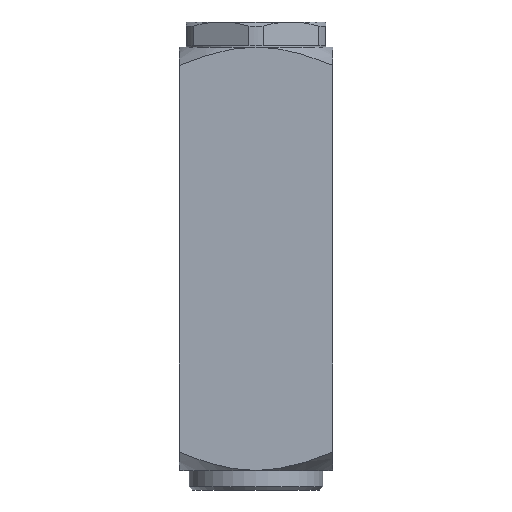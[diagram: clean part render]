
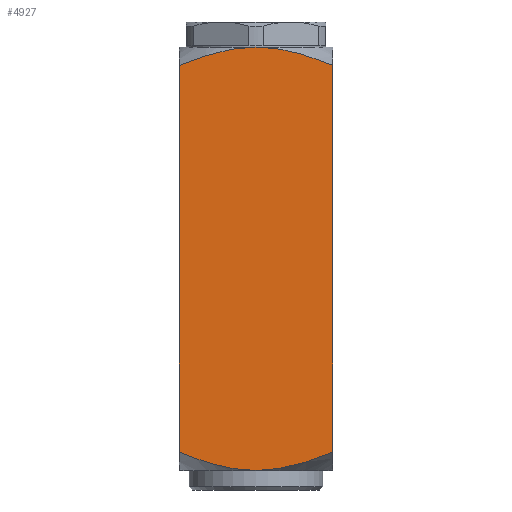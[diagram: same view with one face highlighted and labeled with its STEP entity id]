
A CAD part, front view. The second image highlights one B-rep face of the part: STEP entity #4927.
In plain terms, the highlighted planar face has unit normal (0, -1, 0).
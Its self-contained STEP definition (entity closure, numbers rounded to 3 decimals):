
#163 = B_SPLINE_CURVE_WITH_KNOTS ( 'NONE', 3,
 ( #3318, #3721, #3955, #3984, #4010, #4040, #4047, #4076, #4082, #4111, #4151, #4158 ),
 .UNSPECIFIED., .F., .F.,
 ( 4, 2, 2, 2, 2, 4 ),
 ( 0.059, 0.066, 0.073, 0.077, 0.08, 0.087 ),
 .UNSPECIFIED. ) ;
#1186 = ORIENTED_EDGE ( 'NONE', *, *, #29025, .T. ) ;
#2182 = DIRECTION ( 'NONE',  ( 0., 0., -1. ) ) ;
#2828 = ORIENTED_EDGE ( 'NONE', *, *, #30911, .T. ) ;
#3318 = CARTESIAN_POINT ( 'NONE',  ( 0., -27.5, -76. ) ) ;
#3721 = CARTESIAN_POINT ( 'NONE',  ( 2.386, -27.5, -76. ) ) ;
#3955 = CARTESIAN_POINT ( 'NONE',  ( 4.744, -27.5, -75.818 ) ) ;
#3984 = CARTESIAN_POINT ( 'NONE',  ( 9.409, -27.5, -75.147 ) ) ;
#4010 = CARTESIAN_POINT ( 'NONE',  ( 11.718, -27.5, -74.659 ) ) ;
#4040 = CARTESIAN_POINT ( 'NONE',  ( 15.153, -27.5, -73.759 ) ) ;
#4047 = CARTESIAN_POINT ( 'NONE',  ( 16.294, -27.5, -73.431 ) ) ;
#4076 = CARTESIAN_POINT ( 'NONE',  ( 18.568, -27.5, -72.728 ) ) ;
#4082 = CARTESIAN_POINT ( 'NONE',  ( 19.703, -27.5, -72.352 ) ) ;
#4111 = CARTESIAN_POINT ( 'NONE',  ( 23.083, -27.5, -71.174 ) ) ;
#4151 = CARTESIAN_POINT ( 'NONE',  ( 25.302, -27.5, -70.321 ) ) ;
#4158 = CARTESIAN_POINT ( 'NONE',  ( 27.5, -27.5, -69.423 ) ) ;
#4927 = ADVANCED_FACE ( 'NONE', ( #13042 ), #27724, .T. ) ;
#5675 = CARTESIAN_POINT ( 'NONE',  ( 23.083, -27.5, 71.174 ) ) ;
#5805 = ORIENTED_EDGE ( 'NONE', *, *, #11338, .T. ) ;
#6254 = CARTESIAN_POINT ( 'NONE',  ( 0., -27.5, 76. ) ) ;
#6311 = VERTEX_POINT ( 'NONE', #22726 ) ;
#6484 = CARTESIAN_POINT ( 'NONE',  ( 2.386, -27.5, 76. ) ) ;
#6820 = CARTESIAN_POINT ( 'NONE',  ( 9.409, -27.5, 75.147 ) ) ;
#10295 = CARTESIAN_POINT ( 'NONE',  ( 19.703, -27.5, 72.352 ) ) ;
#10304 = CARTESIAN_POINT ( 'NONE',  ( 4.744, -27.5, 75.818 ) ) ;
#10622 = CARTESIAN_POINT ( 'NONE',  ( 18.568, -27.5, 72.728 ) ) ;
#10948 = CARTESIAN_POINT ( 'NONE',  ( 11.718, -27.5, 74.659 ) ) ;
#11044 = VERTEX_POINT ( 'NONE', #13573 ) ;
#11338 = EDGE_CURVE ( 'NONE', #24760, #14325, #28230, .T. ) ;
#11346 = CARTESIAN_POINT ( 'NONE',  ( 27.5, -27.5, 69.423 ) ) ;
#11443 = CARTESIAN_POINT ( 'NONE',  ( 16.294, -27.5, 73.431 ) ) ;
#12311 = CARTESIAN_POINT ( 'NONE',  ( 15.153, -27.5, 73.759 ) ) ;
#13042 = FACE_OUTER_BOUND ( 'NONE', #13301, .T. ) ;
#13301 = EDGE_LOOP ( 'NONE', ( #27994, #25761, #2828, #1186, #5805, #20919 ) ) ;
#13573 = CARTESIAN_POINT ( 'NONE',  ( -27.5, -27.5, -69.423 ) ) ;
#14325 = VERTEX_POINT ( 'NONE', #21156 ) ;
#16373 = VECTOR ( 'NONE', #25728, 1000. ) ;
#18675 = VECTOR ( 'NONE', #20829, 1000. ) ;
#19171 = CARTESIAN_POINT ( 'NONE',  ( -27.5, -27.5, 69.423 ) ) ;
#19418 = VERTEX_POINT ( 'NONE', #19171 ) ;
#19558 = CARTESIAN_POINT ( 'NONE',  ( -0.592, -27.5, 76. ) ) ;
#19924 = CARTESIAN_POINT ( 'NONE',  ( 0., -27.5, 76. ) ) ;
#20025 = CARTESIAN_POINT ( 'NONE',  ( -1.185, -27.5, 75.989 ) ) ;
#20029 = CARTESIAN_POINT ( 'NONE',  ( -2.375, -27.5, 75.945 ) ) ;
#20063 = CARTESIAN_POINT ( 'NONE',  ( -2.973, -27.5, 75.911 ) ) ;
#20095 = CARTESIAN_POINT ( 'NONE',  ( -4.758, -27.5, 75.779 ) ) ;
#20130 = CARTESIAN_POINT ( 'NONE',  ( -5.938, -27.5, 75.647 ) ) ;
#20137 = CARTESIAN_POINT ( 'NONE',  ( -9.453, -27.5, 75.139 ) ) ;
#20186 = CARTESIAN_POINT ( 'NONE',  ( -11.763, -27.5, 74.648 ) ) ;
#20255 = CARTESIAN_POINT ( 'NONE',  ( -16.335, -27.5, 73.448 ) ) ;
#20261 = CARTESIAN_POINT ( 'NONE',  ( -18.598, -27.5, 72.738 ) ) ;
#20322 = CARTESIAN_POINT ( 'NONE',  ( -23.089, -27.5, 71.172 ) ) ;
#20324 = CARTESIAN_POINT ( 'NONE',  ( -25.305, -27.5, 70.32 ) ) ;
#20357 = CARTESIAN_POINT ( 'NONE',  ( -27.5, -27.5, 69.423 ) ) ;
#20806 = CARTESIAN_POINT ( 'NONE',  ( 27.5, -27.5, -76. ) ) ;
#20829 = DIRECTION ( 'NONE',  ( 0., 0., 1. ) ) ;
#20919 = ORIENTED_EDGE ( 'NONE', *, *, #23880, .T. ) ;
#21156 = CARTESIAN_POINT ( 'NONE',  ( 0., -27.5, 76. ) ) ;
#22271 = VERTEX_POINT ( 'NONE', #23163 ) ;
#22499 = CARTESIAN_POINT ( 'NONE',  ( 27.5, -27.5, 69.423 ) ) ;
#22655 = CARTESIAN_POINT ( 'NONE',  ( -27.5, -27.5, -76. ) ) ;
#22726 = CARTESIAN_POINT ( 'NONE',  ( 27.5, -27.5, -69.423 ) ) ;
#23163 = CARTESIAN_POINT ( 'NONE',  ( 0., -27.5, -76. ) ) ;
#23880 = EDGE_CURVE ( 'NONE', #14325, #19418, #30974, .T. ) ;
#24760 = VERTEX_POINT ( 'NONE', #11346 ) ;
#25344 = LINE ( 'NONE', #20806, #18675 ) ;
#25698 = EDGE_CURVE ( 'NONE', #11044, #22271, #29206, .T. ) ;
#25728 = DIRECTION ( 'NONE',  ( 0., 0., 1. ) ) ;
#25761 = ORIENTED_EDGE ( 'NONE', *, *, #25698, .T. ) ;
#27724 = PLANE ( 'NONE',  #30142 ) ;
#27994 = ORIENTED_EDGE ( 'NONE', *, *, #28063, .F. ) ;
#28063 = EDGE_CURVE ( 'NONE', #11044, #19418, #29651, .T. ) ;
#28230 = B_SPLINE_CURVE_WITH_KNOTS ( 'NONE', 3,
 ( #22499, #31285, #5675, #10295, #10622, #11443, #12311, #10948, #6820, #10304, #6484, #6254 ),
 .UNSPECIFIED., .F., .F.,
 ( 4, 2, 2, 2, 2, 4 ),
 ( 0.071, 0.079, 0.082, 0.086, 0.093, 0.1 ),
 .UNSPECIFIED. ) ;
#29025 = EDGE_CURVE ( 'NONE', #6311, #24760, #25344, .T. ) ;
#29206 = B_SPLINE_CURVE_WITH_KNOTS ( 'NONE', 3,
 ( #31590, #31756, #31788, #31793, #31865, #31873, #31895, #31898, #31938, #31984, #31991, #32024, #32055, #32064 ),
 .UNSPECIFIED., .F., .F.,
 ( 4, 2, 2, 2, 2, 2, 4 ),
 ( 0.03, 0.037, 0.044, 0.052, 0.055, 0.057, 0.059 ),
 .UNSPECIFIED. ) ;
#29651 = LINE ( 'NONE', #22655, #16373 ) ;
#30142 = AXIS2_PLACEMENT_3D ( 'NONE', #31849, #30765, #2182 ) ;
#30765 = DIRECTION ( 'NONE',  ( 0., -1., 0. ) ) ;
#30911 = EDGE_CURVE ( 'NONE', #22271, #6311, #163, .T. ) ;
#30974 = B_SPLINE_CURVE_WITH_KNOTS ( 'NONE', 3,
 ( #19924, #19558, #20025, #20029, #20063, #20095, #20130, #20137, #20186, #20255, #20261, #20322, #20324, #20357 ),
 .UNSPECIFIED., .F., .F.,
 ( 4, 2, 2, 2, 2, 2, 4 ),
 ( 0.1, 0.102, 0.103, 0.107, 0.114, 0.121, 0.128 ),
 .UNSPECIFIED. ) ;
#31285 = CARTESIAN_POINT ( 'NONE',  ( 25.302, -27.5, 70.321 ) ) ;
#31590 = CARTESIAN_POINT ( 'NONE',  ( -27.5, -27.5, -69.423 ) ) ;
#31756 = CARTESIAN_POINT ( 'NONE',  ( -25.305, -27.5, -70.32 ) ) ;
#31788 = CARTESIAN_POINT ( 'NONE',  ( -23.089, -27.5, -71.172 ) ) ;
#31793 = CARTESIAN_POINT ( 'NONE',  ( -18.598, -27.5, -72.738 ) ) ;
#31849 = CARTESIAN_POINT ( 'NONE',  ( -27.5, -27.5, -76. ) ) ;
#31865 = CARTESIAN_POINT ( 'NONE',  ( -16.335, -27.5, -73.448 ) ) ;
#31873 = CARTESIAN_POINT ( 'NONE',  ( -11.763, -27.5, -74.648 ) ) ;
#31895 = CARTESIAN_POINT ( 'NONE',  ( -9.453, -27.5, -75.139 ) ) ;
#31898 = CARTESIAN_POINT ( 'NONE',  ( -5.938, -27.5, -75.647 ) ) ;
#31938 = CARTESIAN_POINT ( 'NONE',  ( -4.758, -27.5, -75.779 ) ) ;
#31984 = CARTESIAN_POINT ( 'NONE',  ( -2.973, -27.5, -75.911 ) ) ;
#31991 = CARTESIAN_POINT ( 'NONE',  ( -2.375, -27.5, -75.945 ) ) ;
#32024 = CARTESIAN_POINT ( 'NONE',  ( -1.185, -27.5, -75.989 ) ) ;
#32055 = CARTESIAN_POINT ( 'NONE',  ( -0.592, -27.5, -76. ) ) ;
#32064 = CARTESIAN_POINT ( 'NONE',  ( 0., -27.5, -76. ) ) ;
